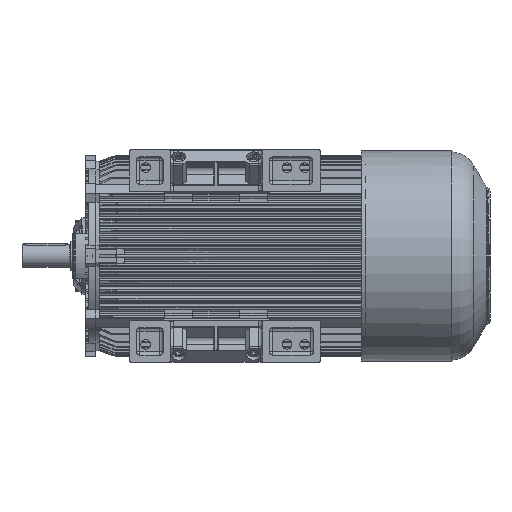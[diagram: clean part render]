
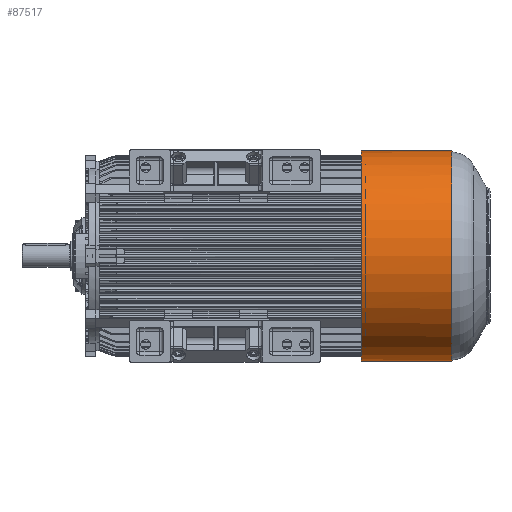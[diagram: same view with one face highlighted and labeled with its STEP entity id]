
A CAD part, front view. The second image highlights one B-rep face of the part: STEP entity #87517.
In plain terms, the highlighted cylindrical face has radius 302.496 mm (diameter 604.992 mm), a full revolution.
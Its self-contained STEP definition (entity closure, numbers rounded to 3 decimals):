
#1661=CYLINDRICAL_SURFACE('',#92567,302.496);
#2806=B_SPLINE_CURVE_WITH_KNOTS('',3,(#120366,#120367,#120368,#120369,#120370,
#120371,#120372,#120373,#120374,#120375,#120376,#120377,#120378,#120379,
#120380,#120381,#120382,#120383,#120384,#120385,#120386,#120387,#120388,
#120389,#120390,#120391,#120392,#120393,#120394),.UNSPECIFIED.,.F.,.F.,
(4,1,1,1,1,1,1,1,1,1,1,1,1,1,1,1,1,1,1,1,1,1,1,1,1,1,4),(0.,0.01,
0.015,0.02,0.03,0.04,
0.05,0.055,0.06,0.065,
0.07,0.075,0.08,0.085,
0.09,0.095,0.1,0.105,
0.11,0.12,0.125,0.13,
0.135,0.14,0.145,0.15,
0.16),.UNSPECIFIED.);
#5875=LINE('',#129274,#10199);
#5876=LINE('',#129276,#10200);
#10199=VECTOR('',#104169,1000.);
#10200=VECTOR('',#104172,1000.);
#19391=ORIENTED_EDGE('',*,*,#34365,.T.);
#19392=ORIENTED_EDGE('',*,*,#34361,.F.);
#19393=ORIENTED_EDGE('',*,*,#34354,.F.);
#19394=ORIENTED_EDGE('',*,*,#32224,.T.);
#19395=ORIENTED_EDGE('',*,*,#34353,.F.);
#19396=ORIENTED_EDGE('',*,*,#34360,.F.);
#19397=ORIENTED_EDGE('',*,*,#34372,.F.);
#32224=EDGE_CURVE('',#40921,#40919,#2806,.T.);
#34353=EDGE_CURVE('',#42327,#40919,#46919,.T.);
#34354=EDGE_CURVE('',#40921,#42328,#46920,.T.);
#34360=EDGE_CURVE('',#42332,#42327,#5875,.F.);
#34361=EDGE_CURVE('',#42328,#42333,#5876,.T.);
#34365=EDGE_CURVE('',#42336,#42336,#46923,.T.);
#34372=EDGE_CURVE('',#42333,#42332,#46930,.T.);
#40919=VERTEX_POINT('',#120364);
#40921=VERTEX_POINT('',#120395);
#42327=VERTEX_POINT('',#129261);
#42328=VERTEX_POINT('',#129263);
#42332=VERTEX_POINT('',#129273);
#42333=VERTEX_POINT('',#129277);
#42336=VERTEX_POINT('',#129285);
#46919=CIRCLE('',#92544,302.496);
#46920=CIRCLE('',#92545,302.496);
#46923=CIRCLE('',#92551,302.496);
#46930=CIRCLE('',#92566,302.496);
#50633=EDGE_LOOP('',(#19391));
#50634=EDGE_LOOP('',(#19392,#19393,#19394,#19395,#19396,#19397));
#54968=FACE_BOUND('',#50633,.T.);
#54969=FACE_BOUND('',#50634,.T.);
#87517=ADVANCED_FACE('',(#54968,#54969),#1661,.T.);
#92544=AXIS2_PLACEMENT_3D('',#129260,#104157,#104158);
#92545=AXIS2_PLACEMENT_3D('',#129262,#104159,#104160);
#92551=AXIS2_PLACEMENT_3D('',#129284,#104179,#104180);
#92566=AXIS2_PLACEMENT_3D('',#129305,#104209,#104210);
#92567=AXIS2_PLACEMENT_3D('',#129306,#104211,#104212);
#104157=DIRECTION('',(-1.,0.,0.));
#104158=DIRECTION('',(0.,0.,1.));
#104159=DIRECTION('',(-1.,0.,0.));
#104160=DIRECTION('',(0.,0.,1.));
#104169=DIRECTION('',(-1.,0.,0.));
#104172=DIRECTION('',(-1.,0.,0.));
#104179=DIRECTION('',(-1.,0.,0.));
#104180=DIRECTION('',(0.,1.,0.));
#104209=DIRECTION('',(-1.,0.,0.));
#104210=DIRECTION('',(0.,1.,0.));
#104211=DIRECTION('',(-1.,0.,0.));
#104212=DIRECTION('',(0.,1.,0.));
#120364=CARTESIAN_POINT('',(758.824,297.83,52.926));
#120366=CARTESIAN_POINT('',(758.824,297.83,-52.926));
#120367=CARTESIAN_POINT('',(762.21,297.862,-52.747));
#120368=CARTESIAN_POINT('',(767.182,297.995,-51.998));
#120369=CARTESIAN_POINT('',(773.594,298.322,-50.088));
#120370=CARTESIAN_POINT('',(779.88,298.743,-47.536));
#120371=CARTESIAN_POINT('',(787.068,299.394,-43.347));
#120372=CARTESIAN_POINT('',(794.742,300.297,-36.654));
#120373=CARTESIAN_POINT('',(799.863,301.018,-30.112));
#120374=CARTESIAN_POINT('',(803.244,301.535,-24.241));
#120375=CARTESIAN_POINT('',(805.321,301.868,-19.67));
#120376=CARTESIAN_POINT('',(806.955,302.14,-14.941));
#120377=CARTESIAN_POINT('',(808.145,302.343,-10.038));
#120378=CARTESIAN_POINT('',(808.866,302.469,-5.004));
#120379=CARTESIAN_POINT('',(809.1,302.51,0.004));
#120380=CARTESIAN_POINT('',(808.865,302.469,5.015));
#120381=CARTESIAN_POINT('',(808.142,302.343,10.055));
#120382=CARTESIAN_POINT('',(806.952,302.139,14.949));
#120383=CARTESIAN_POINT('',(805.317,301.867,19.681));
#120384=CARTESIAN_POINT('',(803.232,301.533,24.266));
#120385=CARTESIAN_POINT('',(799.853,301.016,30.125));
#120386=CARTESIAN_POINT('',(795.758,300.44,35.352));
#120387=CARTESIAN_POINT('',(790.878,299.842,40.033));
#120388=CARTESIAN_POINT('',(786.937,299.408,43.146));
#120389=CARTESIAN_POINT('',(782.743,299.003,45.862));
#120390=CARTESIAN_POINT('',(778.287,298.636,48.185));
#120391=CARTESIAN_POINT('',(773.575,298.321,50.094));
#120392=CARTESIAN_POINT('',(767.179,297.995,51.999));
#120393=CARTESIAN_POINT('',(762.211,297.862,52.747));
#120394=CARTESIAN_POINT('',(758.824,297.83,52.926));
#120395=CARTESIAN_POINT('',(758.824,297.83,-52.926));
#129260=CARTESIAN_POINT('',(758.824,0.,0.));
#129261=CARTESIAN_POINT('',(758.824,296.486,60.));
#129262=CARTESIAN_POINT('',(758.824,0.,0.));
#129263=CARTESIAN_POINT('',(758.824,296.486,-60.));
#129273=CARTESIAN_POINT('',(746.49,296.486,60.));
#129274=CARTESIAN_POINT('',(686.49,296.486,60.));
#129276=CARTESIAN_POINT('',(686.49,296.486,-60.));
#129277=CARTESIAN_POINT('',(746.49,296.486,-60.));
#129284=CARTESIAN_POINT('',(1006.49,0.,0.));
#129285=CARTESIAN_POINT('',(1006.49,302.496,0.));
#129305=CARTESIAN_POINT('',(746.49,0.,0.));
#129306=CARTESIAN_POINT('',(686.49,0.,0.));
